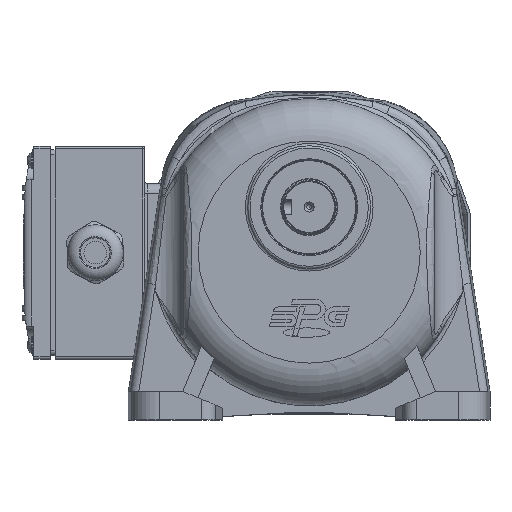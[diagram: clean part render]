
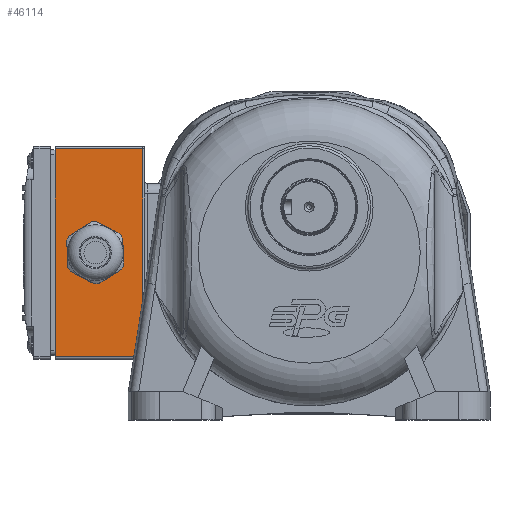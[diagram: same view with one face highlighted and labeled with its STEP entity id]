
A CAD part, top view. The second image highlights one B-rep face of the part: STEP entity #46114.
In plain terms, the highlighted planar face has unit normal (0, 0, 1).
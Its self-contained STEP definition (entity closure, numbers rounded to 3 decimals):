
#2871=LINE('',#65749,#5220);
#2900=LINE('',#65869,#5249);
#2901=LINE('',#65871,#5250);
#2902=LINE('',#65873,#5251);
#2903=LINE('',#65875,#5252);
#2904=LINE('',#65877,#5253);
#3333=LINE('',#67451,#5682);
#3335=LINE('',#67466,#5684);
#3337=LINE('',#67472,#5686);
#3338=LINE('',#67473,#5687);
#5220=VECTOR('',#53657,10.);
#5249=VECTOR('',#53768,10.);
#5250=VECTOR('',#53771,10.);
#5251=VECTOR('',#53774,10.);
#5252=VECTOR('',#53777,10.);
#5253=VECTOR('',#53780,10.);
#5682=VECTOR('',#54931,10.);
#5684=VECTOR('',#54953,10.);
#5686=VECTOR('',#54959,10.);
#5687=VECTOR('',#54960,10.);
#8586=FACE_BOUND('',#11812,.T.);
#9003=FACE_OUTER_BOUND('',#11811,.T.);
#11811=EDGE_LOOP('',(#29693,#29694,#29695,#29696));
#11812=EDGE_LOOP('',(#29697,#29698,#29699,#29700,#29701,#29702,#29703,#29704,
#29705,#29706,#29707,#29708));
#14503=CIRCLE('',#48712,13.);
#14505=CIRCLE('',#48715,13.);
#14507=CIRCLE('',#48718,13.);
#14509=CIRCLE('',#48721,13.);
#14511=CIRCLE('',#48724,13.);
#14513=CIRCLE('',#48727,13.);
#17157=VERTEX_POINT('',#65695);
#17159=VERTEX_POINT('',#65699);
#17161=VERTEX_POINT('',#65704);
#17163=VERTEX_POINT('',#65708);
#17165=VERTEX_POINT('',#65713);
#17167=VERTEX_POINT('',#65717);
#17169=VERTEX_POINT('',#65722);
#17171=VERTEX_POINT('',#65726);
#17173=VERTEX_POINT('',#65731);
#17175=VERTEX_POINT('',#65735);
#17177=VERTEX_POINT('',#65740);
#17179=VERTEX_POINT('',#65744);
#17632=VERTEX_POINT('',#67447);
#17633=VERTEX_POINT('',#67449);
#17636=VERTEX_POINT('',#67465);
#17638=VERTEX_POINT('',#67471);
#21441=EDGE_CURVE('',#17157,#17159,#14503,.T.);
#21445=EDGE_CURVE('',#17161,#17163,#14505,.T.);
#21449=EDGE_CURVE('',#17165,#17167,#14507,.T.);
#21453=EDGE_CURVE('',#17169,#17171,#14509,.T.);
#21457=EDGE_CURVE('',#17173,#17175,#14511,.T.);
#21461=EDGE_CURVE('',#17177,#17179,#14513,.T.);
#21463=EDGE_CURVE('',#17179,#17157,#2871,.T.);
#21519=EDGE_CURVE('',#17159,#17161,#2900,.T.);
#21520=EDGE_CURVE('',#17175,#17177,#2901,.T.);
#21521=EDGE_CURVE('',#17171,#17173,#2902,.T.);
#21522=EDGE_CURVE('',#17167,#17169,#2903,.T.);
#21523=EDGE_CURVE('',#17163,#17165,#2904,.T.);
#22142=EDGE_CURVE('',#17633,#17632,#3333,.T.);
#22149=EDGE_CURVE('',#17632,#17636,#3335,.T.);
#22152=EDGE_CURVE('',#17638,#17633,#3337,.T.);
#22153=EDGE_CURVE('',#17638,#17636,#3338,.T.);
#29693=ORIENTED_EDGE('',*,*,#22142,.F.);
#29694=ORIENTED_EDGE('',*,*,#22152,.F.);
#29695=ORIENTED_EDGE('',*,*,#22153,.T.);
#29696=ORIENTED_EDGE('',*,*,#22149,.F.);
#29697=ORIENTED_EDGE('',*,*,#21461,.T.);
#29698=ORIENTED_EDGE('',*,*,#21463,.T.);
#29699=ORIENTED_EDGE('',*,*,#21441,.T.);
#29700=ORIENTED_EDGE('',*,*,#21519,.T.);
#29701=ORIENTED_EDGE('',*,*,#21445,.T.);
#29702=ORIENTED_EDGE('',*,*,#21523,.T.);
#29703=ORIENTED_EDGE('',*,*,#21449,.T.);
#29704=ORIENTED_EDGE('',*,*,#21522,.T.);
#29705=ORIENTED_EDGE('',*,*,#21453,.T.);
#29706=ORIENTED_EDGE('',*,*,#21521,.T.);
#29707=ORIENTED_EDGE('',*,*,#21457,.T.);
#29708=ORIENTED_EDGE('',*,*,#21520,.T.);
#42373=PLANE('',#49146);
#46114=ADVANCED_FACE('',(#9003,#8586),#42373,.T.);
#48712=AXIS2_PLACEMENT_3D('',#65701,#53612,#53613);
#48715=AXIS2_PLACEMENT_3D('',#65710,#53620,#53621);
#48718=AXIS2_PLACEMENT_3D('',#65719,#53628,#53629);
#48721=AXIS2_PLACEMENT_3D('',#65728,#53636,#53637);
#48724=AXIS2_PLACEMENT_3D('',#65737,#53644,#53645);
#48727=AXIS2_PLACEMENT_3D('',#65746,#53652,#53653);
#49146=AXIS2_PLACEMENT_3D('',#67470,#54957,#54958);
#53612=DIRECTION('center_axis',(0.,0.,
-1.));
#53613=DIRECTION('ref_axis',(0.037,-0.999,0.));
#53620=DIRECTION('center_axis',(0.,0.,
-1.));
#53621=DIRECTION('ref_axis',(0.037,-0.999,0.));
#53628=DIRECTION('center_axis',(0.,0.,
-1.));
#53629=DIRECTION('ref_axis',(0.037,-0.999,0.));
#53636=DIRECTION('center_axis',(0.,0.,
-1.));
#53637=DIRECTION('ref_axis',(0.037,-0.999,0.));
#53644=DIRECTION('center_axis',(0.,0.,
-1.));
#53645=DIRECTION('ref_axis',(0.037,-0.999,0.));
#53652=DIRECTION('center_axis',(0.,0.,
-1.));
#53653=DIRECTION('ref_axis',(0.037,-0.999,0.));
#53657=DIRECTION('',(-0.037,0.999,0.));
#53768=DIRECTION('',(0.847,0.532,0.));
#53771=DIRECTION('',(-0.884,0.467,0.));
#53774=DIRECTION('',(-0.847,-0.532,0.));
#53777=DIRECTION('',(0.037,-0.999,0.));
#53780=DIRECTION('',(0.884,-0.467,0.));
#54931=DIRECTION('',(0.,-1.,0.));
#54953=DIRECTION('',(-1.,0.,0.));
#54957=DIRECTION('center_axis',(0.,0.,
1.));
#54958=DIRECTION('ref_axis',(1.,0.,0.));
#54959=DIRECTION('',(1.,0.,0.));
#54960=DIRECTION('',(0.,-1.,0.));
#65695=CARTESIAN_POINT('',(-112.335,5.321,-96.75));
#65699=CARTESIAN_POINT('',(-111.124,7.612,-96.75));
#65701=CARTESIAN_POINT('Origin',(-100.293,0.423,-96.75));
#65704=CARTESIAN_POINT('',(-102.072,13.301,-96.75));
#65708=CARTESIAN_POINT('',(-99.483,13.398,-96.75));
#65710=CARTESIAN_POINT('Origin',(-100.293,0.423,-96.75));
#65713=CARTESIAN_POINT('',(-90.03,8.402,-96.75));
#65717=CARTESIAN_POINT('',(-88.651,6.209,-96.75));
#65719=CARTESIAN_POINT('Origin',(-100.293,0.423,-96.75));
#65722=CARTESIAN_POINT('',(-88.251,-4.475,-96.75));
#65726=CARTESIAN_POINT('',(-89.461,-6.766,-96.75));
#65728=CARTESIAN_POINT('Origin',(-100.293,0.423,-96.75));
#65731=CARTESIAN_POINT('',(-98.514,-12.455,-96.75));
#65735=CARTESIAN_POINT('',(-101.103,-12.552,-96.75));
#65737=CARTESIAN_POINT('Origin',(-100.293,0.423,-96.75));
#65740=CARTESIAN_POINT('',(-110.556,-7.556,-96.75));
#65744=CARTESIAN_POINT('',(-111.934,-5.363,-96.75));
#65746=CARTESIAN_POINT('Origin',(-100.293,0.423,-96.75));
#65749=CARTESIAN_POINT('',(-113.09,25.473,-96.75));
#65869=CARTESIAN_POINT('',(-86.038,23.377,-96.75));
#65871=CARTESIAN_POINT('',(-109.94,-7.882,-96.75));
#65873=CARTESIAN_POINT('',(-79.22,-0.33,-96.75));
#65875=CARTESIAN_POINT('',(-89.15,19.524,-96.75));
#65877=CARTESIAN_POINT('',(-92.818,9.876,-96.75));
#67447=CARTESIAN_POINT('',(-80.293,-43.577,-96.75));
#67449=CARTESIAN_POINT('',(-80.293,44.423,-96.75));
#67451=CARTESIAN_POINT('',(-80.293,22.923,-96.75));
#67465=CARTESIAN_POINT('',(-117.293,-43.577,-96.75));
#67466=CARTESIAN_POINT('',(-79.293,-43.577,-96.75));
#67470=CARTESIAN_POINT('Origin',(-79.293,45.423,-96.75));
#67471=CARTESIAN_POINT('',(-117.293,44.423,-96.75));
#67472=CARTESIAN_POINT('',(-79.293,44.423,-96.75));
#67473=CARTESIAN_POINT('',(-117.293,-44.577,-96.75));
